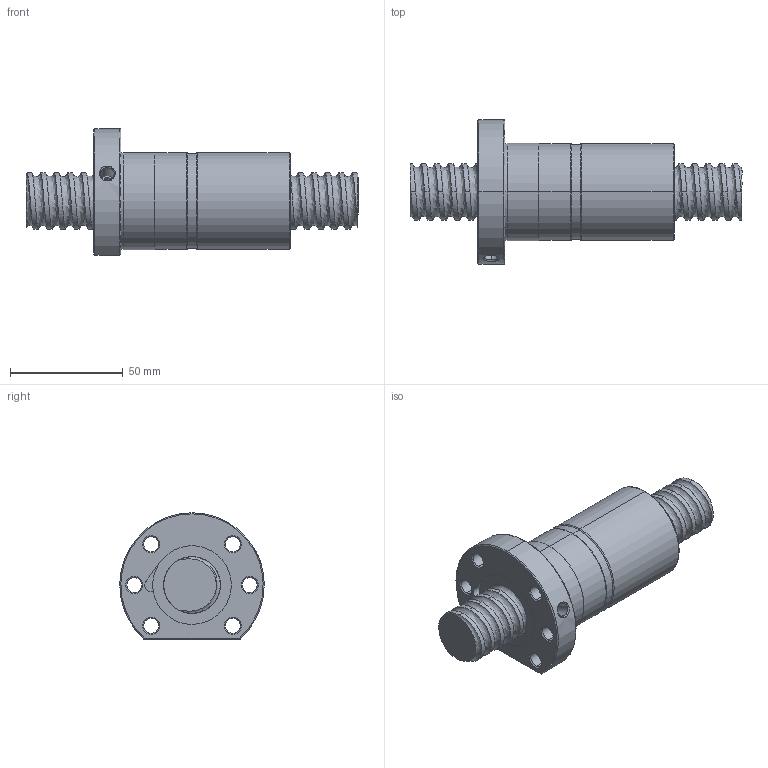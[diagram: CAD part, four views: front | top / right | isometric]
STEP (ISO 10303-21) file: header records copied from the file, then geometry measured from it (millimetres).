
FILE_DESCRIPTION (( 'STEP AP214' ), '1' );
FILE_NAME ('FDDC02506T4-C-B.STEP', '2010-07-07T02:38:27', ( 'XPAUTO' ), ( 'XPAUTO' ), 'SwSTEP 2.0', 'SolidWorks 2007', '' );
FILE_SCHEMA (( 'AUTOMOTIVE_DESIGN' ));
Length unit declared in the file: millimetre
Products named in the file (3): FDDC02506T4-C-B; FDDC02506T4-C-B.sldasm-Part-2_預設; FDDC02506T4-C-B.sldasm-Part-1_預設
Assembly tree (2 placements, depth 2):
  FDDC02506T4-C-B
    FDDC02506T4-C-B.sldasm-Part-2_預設
    FDDC02506T4-C-B.sldasm-Part-1_預設
Bounding box: 147 x 63.99 x 56 mm (x, y, z)
Volume: 160705.9 mm3; surface area: 40885.3 mm2
Topology: 2 solids, 2 shells, 150 faces, 379 edges, 238 vertices
Faces by surface type: cylinder 92, cone 24, plane 20, torus 9, bspline 5
Entity records: 31510 total; most frequent: CARTESIAN_POINT 27963, ORIENTED_EDGE 758, DIRECTION 673, EDGE_CURVE 379, AXIS2_PLACEMENT_3D 272, VERTEX_POINT 238, EDGE_LOOP 171, FACE_OUTER_BOUND 150
